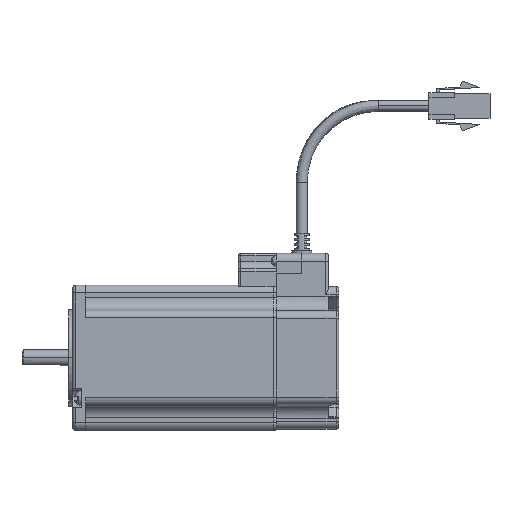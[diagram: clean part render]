
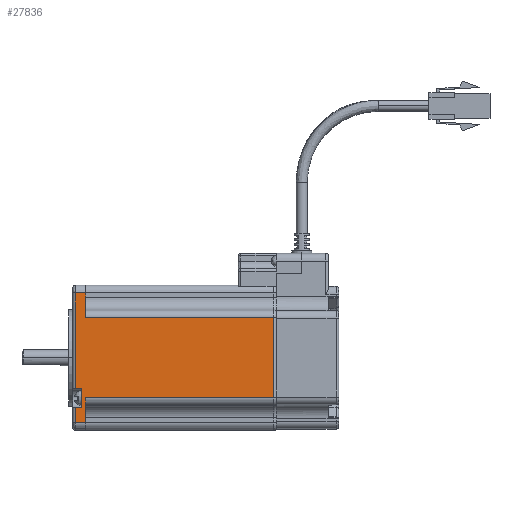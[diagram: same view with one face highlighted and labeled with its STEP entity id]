
A CAD part, top view. The second image highlights one B-rep face of the part: STEP entity #27836.
In plain terms, the highlighted planar face has unit normal (0, 0, 1) as drawn and (-1, 0, 0) by its records, which use the part's own axes.
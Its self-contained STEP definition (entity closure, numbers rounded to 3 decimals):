
#36 = ORIENTED_EDGE ( 'NONE', *, *, #16528, .T. ) ;
#90 = LINE ( 'NONE', #19329, #11457 ) ;
#258 = ORIENTED_EDGE ( 'NONE', *, *, #11148, .T. ) ;
#327 = VERTEX_POINT ( 'NONE', #5588 ) ;
#383 = VERTEX_POINT ( 'NONE', #2935 ) ;
#578 = ORIENTED_EDGE ( 'NONE', *, *, #28076, .T. ) ;
#965 = EDGE_CURVE ( 'NONE', #16585, #19332, #17387, .T. ) ;
#1294 = VERTEX_POINT ( 'NONE', #12971 ) ;
#1436 = VECTOR ( 'NONE', #27227, 1000. ) ;
#1998 = VECTOR ( 'NONE', #12833, 1000. ) ;
#2062 = CARTESIAN_POINT ( 'NONE',  ( -36.289, -133.973, -100. ) ) ;
#2326 = VECTOR ( 'NONE', #22929, 1000. ) ;
#2555 = DIRECTION ( 'NONE',  ( 0., 0., 1. ) ) ;
#2571 = CARTESIAN_POINT ( 'NONE',  ( -36.289, -121.243, -20. ) ) ;
#2898 = VERTEX_POINT ( 'NONE', #6910 ) ;
#2935 = CARTESIAN_POINT ( 'NONE',  ( -36.289, -165.513, -98. ) ) ;
#3106 = FACE_OUTER_BOUND ( 'NONE', #16929, .T. ) ;
#3504 = LINE ( 'NONE', #2571, #20633 ) ;
#3690 = CARTESIAN_POINT ( 'NONE',  ( -36.289, -133.973, -24. ) ) ;
#3833 = CARTESIAN_POINT ( 'NONE',  ( -36.289, -137.543, -100. ) ) ;
#4466 = ORIENTED_EDGE ( 'NONE', *, *, #15652, .T. ) ;
#4885 = LINE ( 'NONE', #5072, #22570 ) ;
#5011 = ORIENTED_EDGE ( 'NONE', *, *, #20155, .T. ) ;
#5072 = CARTESIAN_POINT ( 'NONE',  ( -36.289, -121.243, -20. ) ) ;
#5588 = CARTESIAN_POINT ( 'NONE',  ( -36.289, -137.543, -20. ) ) ;
#6702 = CARTESIAN_POINT ( 'NONE',  ( -36.289, -124.243, -24. ) ) ;
#6836 = CARTESIAN_POINT ( 'NONE',  ( -36.289, -175.243, -100. ) ) ;
#6910 = CARTESIAN_POINT ( 'NONE',  ( -36.289, -130.143, -20. ) ) ;
#7511 = DIRECTION ( 'NONE',  ( 0., 1., 0. ) ) ;
#7660 = VERTEX_POINT ( 'NONE', #14639 ) ;
#8010 = LINE ( 'NONE', #3833, #1998 ) ;
#8241 = VERTEX_POINT ( 'NONE', #17940 ) ;
#8737 = CARTESIAN_POINT ( 'NONE',  ( -36.289, -175.243, -20. ) ) ;
#8762 = EDGE_CURVE ( 'NONE', #7660, #22712, #90, .T. ) ;
#9501 = CARTESIAN_POINT ( 'NONE',  ( -36.289, -121.243, -100. ) ) ;
#9609 = CARTESIAN_POINT ( 'NONE',  ( -36.289, -165.513, -24. ) ) ;
#9806 = ORIENTED_EDGE ( 'NONE', *, *, #20065, .F. ) ;
#11148 = EDGE_CURVE ( 'NONE', #1294, #383, #19346, .T. ) ;
#11156 = DIRECTION ( 'NONE',  ( 0., 0., 1. ) ) ;
#11315 = VECTOR ( 'NONE', #18894, 1000. ) ;
#11457 = VECTOR ( 'NONE', #19113, 1000. ) ;
#11774 = EDGE_CURVE ( 'NONE', #25819, #8241, #23035, .T. ) ;
#11822 = DIRECTION ( 'NONE',  ( 0., 0., 1. ) ) ;
#12833 = DIRECTION ( 'NONE',  ( 0., 0., -1. ) ) ;
#12971 = CARTESIAN_POINT ( 'NONE',  ( -36.289, -133.973, -98. ) ) ;
#13729 = DIRECTION ( 'NONE',  ( 0., 1., 0. ) ) ;
#14359 = VECTOR ( 'NONE', #14814, 1000. ) ;
#14370 = ORIENTED_EDGE ( 'NONE', *, *, #23716, .T. ) ;
#14639 = CARTESIAN_POINT ( 'NONE',  ( -36.289, -124.243, -20. ) ) ;
#14710 = CARTESIAN_POINT ( 'NONE',  ( -36.289, -121.243, -24. ) ) ;
#14814 = DIRECTION ( 'NONE',  ( 0., -1., 0. ) ) ;
#15045 = LINE ( 'NONE', #14710, #14359 ) ;
#15652 = EDGE_CURVE ( 'NONE', #2898, #7660, #4885, .T. ) ;
#15845 = LINE ( 'NONE', #6836, #27973 ) ;
#16369 = AXIS2_PLACEMENT_3D ( 'NONE', #9501, #24912, #11822 ) ;
#16528 = EDGE_CURVE ( 'NONE', #383, #25819, #26511, .T. ) ;
#16585 = VERTEX_POINT ( 'NONE', #23199 ) ;
#16929 = EDGE_LOOP ( 'NONE', ( #9806, #258, #36, #23275, #14370, #23138, #578, #26672, #5011, #4466, #17915, #22498 ) ) ;
#17387 = LINE ( 'NONE', #22426, #28115 ) ;
#17769 = DIRECTION ( 'NONE',  ( 0., 0., 1. ) ) ;
#17881 = VERTEX_POINT ( 'NONE', #8737 ) ;
#17915 = ORIENTED_EDGE ( 'NONE', *, *, #8762, .T. ) ;
#17940 = CARTESIAN_POINT ( 'NONE',  ( -36.289, -175.243, -24. ) ) ;
#17945 = LINE ( 'NONE', #24610, #22381 ) ;
#18668 = VECTOR ( 'NONE', #11156, 1000. ) ;
#18890 = CARTESIAN_POINT ( 'NONE',  ( -36.289, -121.243, -24. ) ) ;
#18894 = DIRECTION ( 'NONE',  ( 0., -1., 0. ) ) ;
#19113 = DIRECTION ( 'NONE',  ( 0., 0., -1. ) ) ;
#19329 = CARTESIAN_POINT ( 'NONE',  ( -36.289, -124.243, -100. ) ) ;
#19332 = VERTEX_POINT ( 'NONE', #20715 ) ;
#19346 = LINE ( 'NONE', #26947, #1436 ) ;
#20065 = EDGE_CURVE ( 'NONE', #1294, #25515, #24371, .T. ) ;
#20155 = EDGE_CURVE ( 'NONE', #19332, #2898, #17945, .T. ) ;
#20633 = VECTOR ( 'NONE', #13729, 1000. ) ;
#20715 = CARTESIAN_POINT ( 'NONE',  ( -36.289, -130.143, -22.5 ) ) ;
#20880 = DIRECTION ( 'NONE',  ( 0., 1., 0. ) ) ;
#22381 = VECTOR ( 'NONE', #2555, 1000. ) ;
#22426 = CARTESIAN_POINT ( 'NONE',  ( -36.289, -121.243, -22.5 ) ) ;
#22498 = ORIENTED_EDGE ( 'NONE', *, *, #25494, .T. ) ;
#22570 = VECTOR ( 'NONE', #7511, 1000. ) ;
#22712 = VERTEX_POINT ( 'NONE', #6702 ) ;
#22799 = PLANE ( 'NONE',  #16369 ) ;
#22929 = DIRECTION ( 'NONE',  ( 0., 0., 1. ) ) ;
#23035 = LINE ( 'NONE', #18890, #11315 ) ;
#23138 = ORIENTED_EDGE ( 'NONE', *, *, #25769, .T. ) ;
#23199 = CARTESIAN_POINT ( 'NONE',  ( -36.289, -137.543, -22.5 ) ) ;
#23275 = ORIENTED_EDGE ( 'NONE', *, *, #11774, .T. ) ;
#23716 = EDGE_CURVE ( 'NONE', #8241, #17881, #15845, .T. ) ;
#24371 = LINE ( 'NONE', #2062, #18668 ) ;
#24610 = CARTESIAN_POINT ( 'NONE',  ( -36.289, -130.143, -100. ) ) ;
#24912 = DIRECTION ( 'NONE',  ( -1., 0., 0. ) ) ;
#24945 = CARTESIAN_POINT ( 'NONE',  ( -36.289, -165.513, -100. ) ) ;
#25494 = EDGE_CURVE ( 'NONE', #22712, #25515, #15045, .T. ) ;
#25515 = VERTEX_POINT ( 'NONE', #3690 ) ;
#25769 = EDGE_CURVE ( 'NONE', #17881, #327, #3504, .T. ) ;
#25819 = VERTEX_POINT ( 'NONE', #9609 ) ;
#26511 = LINE ( 'NONE', #24945, #2326 ) ;
#26672 = ORIENTED_EDGE ( 'NONE', *, *, #965, .T. ) ;
#26947 = CARTESIAN_POINT ( 'NONE',  ( -36.289, -121.243, -98. ) ) ;
#27227 = DIRECTION ( 'NONE',  ( 0., -1., 0. ) ) ;
#27836 = ADVANCED_FACE ( 'NONE', ( #3106 ), #22799, .T. ) ;
#27973 = VECTOR ( 'NONE', #17769, 1000. ) ;
#28076 = EDGE_CURVE ( 'NONE', #327, #16585, #8010, .T. ) ;
#28115 = VECTOR ( 'NONE', #20880, 1000. ) ;
